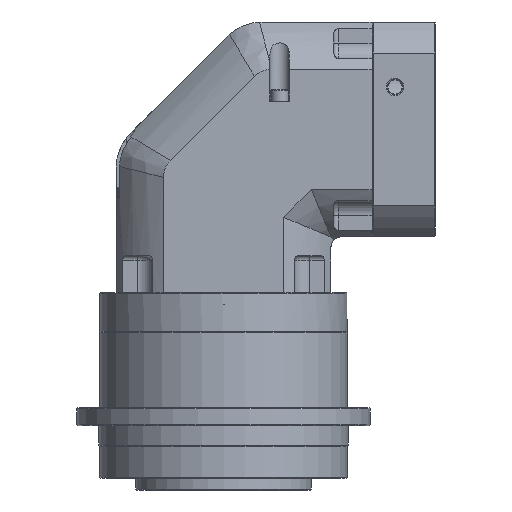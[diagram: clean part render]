
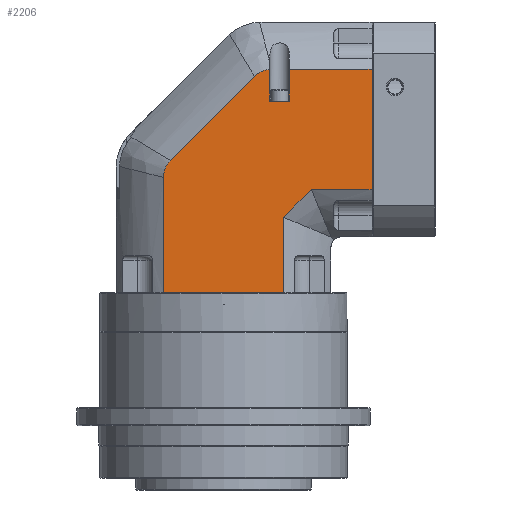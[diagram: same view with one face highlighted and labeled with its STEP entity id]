
A CAD part, left-side view. The second image highlights one B-rep face of the part: STEP entity #2206.
In plain terms, the highlighted planar face has unit normal (-1, 0, 0).
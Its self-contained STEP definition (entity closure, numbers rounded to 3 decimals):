
#1747=CARTESIAN_POINT('',(-110.,-67.5,430.449));
#1748=VERTEX_POINT('',#1747);
#1764=CARTESIAN_POINT('',(-110.,-67.5,398.));
#1765=VERTEX_POINT('',#1764);
#1772=CARTESIAN_POINT('',(-110.,-67.5,430.449));
#1773=DIRECTION('',(0.0,0.0,-1.0));
#1774=VECTOR('',#1773,32.449);
#1775=LINE('',#1772,#1774);
#1776=EDGE_CURVE('',#1748,#1765,#1775,.T.);
#1797=CARTESIAN_POINT('',(-110.,-47.5,430.401));
#1798=VERTEX_POINT('',#1797);
#1806=CARTESIAN_POINT('',(-110.,-47.5,398.));
#1807=VERTEX_POINT('',#1806);
#1808=CARTESIAN_POINT('',(-110.,-47.5,398.));
#1809=DIRECTION('',(0.0,0.0,1.0));
#1810=VECTOR('',#1809,32.401);
#1811=LINE('',#1808,#1810);
#1812=EDGE_CURVE('',#1807,#1798,#1811,.T.);
#1935=CARTESIAN_POINT('',(-110.,-67.5,398.));
#1936=DIRECTION('',(0.0,1.0,0.0));
#1937=VECTOR('',#1936,20.);
#1938=LINE('',#1935,#1937);
#1939=EDGE_CURVE('',#1765,#1807,#1938,.T.);
#1988=CARTESIAN_POINT('',(-110.,-152.,430.449));
#1989=VERTEX_POINT('',#1988);
#1990=CARTESIAN_POINT('',(-110.,-67.5,430.449));
#1991=DIRECTION('',(0.0,-1.0,0.0));
#1992=VECTOR('',#1991,84.5);
#1993=LINE('',#1990,#1992);
#1994=EDGE_CURVE('',#1748,#1989,#1993,.T.);
#2119=CARTESIAN_POINT('',(-110.,61.449,479.));
#2120=DIRECTION('',(-1.0,0.0,0.0));
#2121=DIRECTION('',(0.0,0.0,1.0));
#2122=AXIS2_PLACEMENT_3D('',#2119,#2120,#2121);
#2123=PLANE('',#2122);
#2124=ORIENTED_EDGE('',*,*,#1776,.T.);
#2125=ORIENTED_EDGE('',*,*,#1939,.T.);
#2126=ORIENTED_EDGE('',*,*,#1812,.T.);
#2127=CARTESIAN_POINT('',(-110.,-31.841,423.307));
#2128=VERTEX_POINT('',#2127);
#2129=CARTESIAN_POINT('',(-110.,-31.841,423.307));
#2130=CARTESIAN_POINT('',(-110.,-34.118,425.584));
#2131=CARTESIAN_POINT('',(-110.,-36.764,427.394));
#2132=CARTESIAN_POINT('',(-110.,-42.219,429.655));
#2133=CARTESIAN_POINT('',(-110.,-44.829,430.237));
#2134=CARTESIAN_POINT('',(-110.,-47.5,430.401));
#2135=B_SPLINE_CURVE_WITH_KNOTS('',3,(#2129,#2130,#2131,#2132,#2133,#2134),.UNSPECIFIED.,.F.,.U.,(4,2,4),(0.0,0.966,1.773),.UNSPECIFIED.);
#2136=EDGE_CURVE('',#2128,#1798,#2135,.T.);
#2137=ORIENTED_EDGE('',*,*,#2136,.F.);
#2138=CARTESIAN_POINT('',(-110.,54.307,337.159));
#2139=VERTEX_POINT('',#2138);
#2140=CARTESIAN_POINT('',(-110.,-31.841,423.307));
#2141=DIRECTION('',(0.,0.707,-0.707));
#2142=VECTOR('',#2141,121.832);
#2143=LINE('',#2140,#2142);
#2144=EDGE_CURVE('',#2128,#2139,#2143,.T.);
#2145=ORIENTED_EDGE('',*,*,#2144,.T.);
#2146=CARTESIAN_POINT('',(-110.,61.449,319.916));
#2147=VERTEX_POINT('',#2146);
#2148=CARTESIAN_POINT('',(-110.,61.449,319.916));
#2149=CARTESIAN_POINT('',(-110.,61.449,323.136));
#2150=CARTESIAN_POINT('',(-110.,60.858,326.287));
#2151=CARTESIAN_POINT('',(-110.,58.397,332.232));
#2152=CARTESIAN_POINT('',(-110.,56.585,334.88));
#2153=CARTESIAN_POINT('',(-110.,54.307,337.159));
#2154=B_SPLINE_CURVE_WITH_KNOTS('',3,(#2148,#2149,#2150,#2151,#2152,#2153),.UNSPECIFIED.,.F.,.U.,(4,2,4),(0.0,0.966,1.932),.UNSPECIFIED.);
#2155=EDGE_CURVE('',#2147,#2139,#2154,.T.);
#2156=ORIENTED_EDGE('',*,*,#2155,.F.);
#2157=CARTESIAN_POINT('',(-110.,61.449,202.));
#2158=VERTEX_POINT('',#2157);
#2159=CARTESIAN_POINT('',(-110.,61.449,319.916));
#2160=DIRECTION('',(0.0,0.0,-1.0));
#2161=VECTOR('',#2160,117.916);
#2162=LINE('',#2159,#2161);
#2163=EDGE_CURVE('',#2147,#2158,#2162,.T.);
#2164=ORIENTED_EDGE('',*,*,#2163,.T.);
#2165=CARTESIAN_POINT('',(-110.,-61.449,202.));
#2166=VERTEX_POINT('',#2165);
#2167=CARTESIAN_POINT('',(-110.,-61.449,202.));
#2168=DIRECTION('',(0.0,1.0,0.0));
#2169=VECTOR('',#2168,122.898);
#2170=LINE('',#2167,#2169);
#2171=EDGE_CURVE('',#2166,#2158,#2170,.T.);
#2172=ORIENTED_EDGE('',*,*,#2171,.F.);
#2173=CARTESIAN_POINT('',(-110.,-61.449,279.11));
#2174=VERTEX_POINT('',#2173);
#2175=CARTESIAN_POINT('',(-110.,-61.449,279.11));
#2176=DIRECTION('',(0.0,0.0,-1.0));
#2177=VECTOR('',#2176,77.11);
#2178=LINE('',#2175,#2177);
#2179=EDGE_CURVE('',#2174,#2166,#2178,.T.);
#2180=ORIENTED_EDGE('',*,*,#2179,.F.);
#2181=CARTESIAN_POINT('',(-110.,-89.89,307.551));
#2182=VERTEX_POINT('',#2181);
#2183=CARTESIAN_POINT('',(-110.,-89.89,307.551));
#2184=DIRECTION('',(0.,0.707,-0.707));
#2185=VECTOR('',#2184,40.221);
#2186=LINE('',#2183,#2185);
#2187=EDGE_CURVE('',#2182,#2174,#2186,.T.);
#2188=ORIENTED_EDGE('',*,*,#2187,.F.);
#2189=CARTESIAN_POINT('',(-110.,-152.,307.551));
#2190=VERTEX_POINT('',#2189);
#2191=CARTESIAN_POINT('',(-110.,-89.89,307.551));
#2192=DIRECTION('',(0.0,-1.0,0.0));
#2193=VECTOR('',#2192,62.11);
#2194=LINE('',#2191,#2193);
#2195=EDGE_CURVE('',#2182,#2190,#2194,.T.);
#2196=ORIENTED_EDGE('',*,*,#2195,.T.);
#2197=CARTESIAN_POINT('',(-110.,-152.,307.551));
#2198=DIRECTION('',(0.0,0.0,1.0));
#2199=VECTOR('',#2198,122.898);
#2200=LINE('',#2197,#2199);
#2201=EDGE_CURVE('',#2190,#1989,#2200,.T.);
#2202=ORIENTED_EDGE('',*,*,#2201,.T.);
#2203=ORIENTED_EDGE('',*,*,#1994,.F.);
#2204=EDGE_LOOP('',(#2124,#2125,#2126,#2137,#2145,#2156,#2164,#2172,#2180,#2188,#2196,#2202,#2203));
#2205=FACE_OUTER_BOUND('',#2204,.T.);
#2206=ADVANCED_FACE('',(#2205),#2123,.T.);
